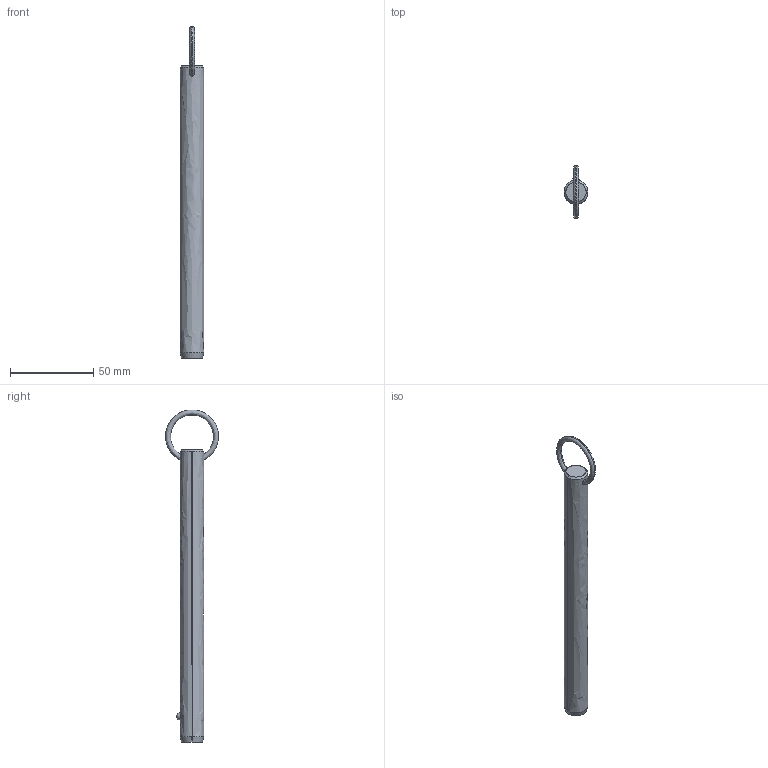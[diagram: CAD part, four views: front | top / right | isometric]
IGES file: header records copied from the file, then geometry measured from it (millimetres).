
Start section: SolidWorks IGES file using analytic representation for surfaces
Global section: file name: C:\Users\liam_\OneDrive\Documents\WORK\Work for WixRoyd\Job Files\J-00019 - Matt Davis CAD Checking\04. CAD Drawings\automotion20190605\P1250.2_v2\P1250.2_v2_20190729_IGES\P1250.056-590.igs; native system: SolidWorks 2017; preprocessor: SolidWorks 2017; author: liam_; date: 190729.232645; units: millimetre
Bounding box: 14.2 x 31.7 x 198.99 mm (x, y, z)
Surface area: 8781.6 mm2 (no closed solid volume)
Topology: 0 solids, 0 shells, 12 faces, 285 edges, 283 vertices
Faces by surface type: revolution 8, bspline 4
